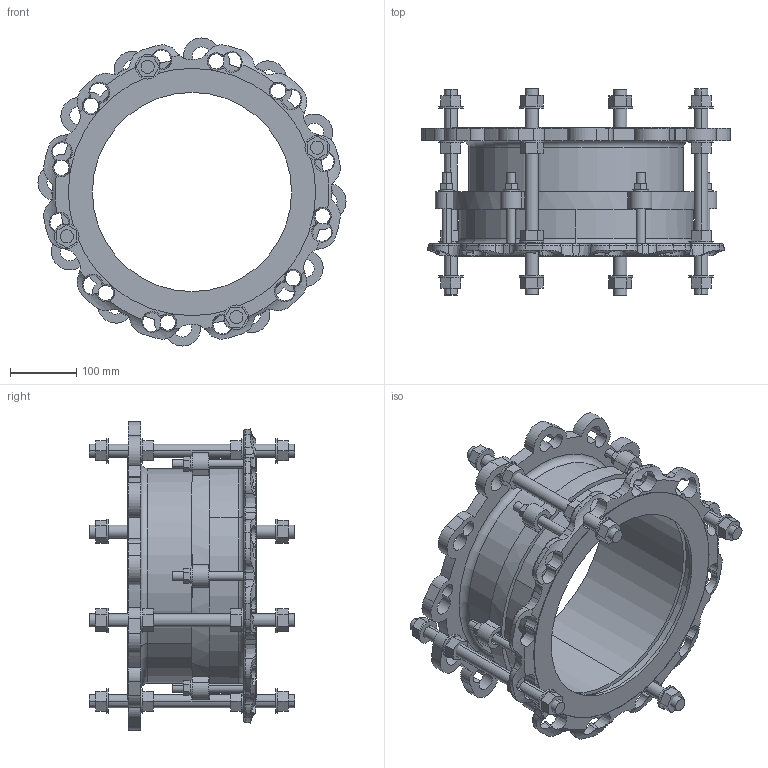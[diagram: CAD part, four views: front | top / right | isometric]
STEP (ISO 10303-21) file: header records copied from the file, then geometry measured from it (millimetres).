
FILE_DESCRIPTION((''),'2;1');
FILE_NAME('DJ_300PN10_ASM','2018-10-23T',('mfairey'),('Glynwed Pipe Systems'),'CREO PARAMETRIC BY PTC INC, 2016130','CREO PARAMETRIC BY PTC INC, 2016130','');
FILE_SCHEMA(('CONFIG_CONTROL_DESIGN'));
Length unit declared in the file: millimetre
Products named in the file (5): 12495_BIM; 12518_BIM_19; 13524_BIM; TIE_BOLT_BIM; DJ_300PN10_ASM
Assembly tree (7 placements, depth 2):
  DJ_300PN10_ASM
    12495_BIM
    12518_BIM_19
    13524_BIM
    TIE_BOLT_BIM  x4
Bounding box: 463.98 x 310 x 463.98 mm (x, y, z)
Volume: 4015931.2 mm3; surface area: 1136231.8 mm2
Topology: 19 solids, 23 shells, 687 faces, 1710 edges, 1114 vertices
Faces by surface type: plane 283, cylinder 196, cone 78, bspline 72, torus 58
Entity records: 20627 total; most frequent: CARTESIAN_POINT 8163, ORIENTED_EDGE 2664, DIRECTION 2526, EDGE_CURVE 1332, AXIS2_PLACEMENT_3D 1021, VERTEX_POINT 862, EDGE_LOOP 582, CIRCLE 572
